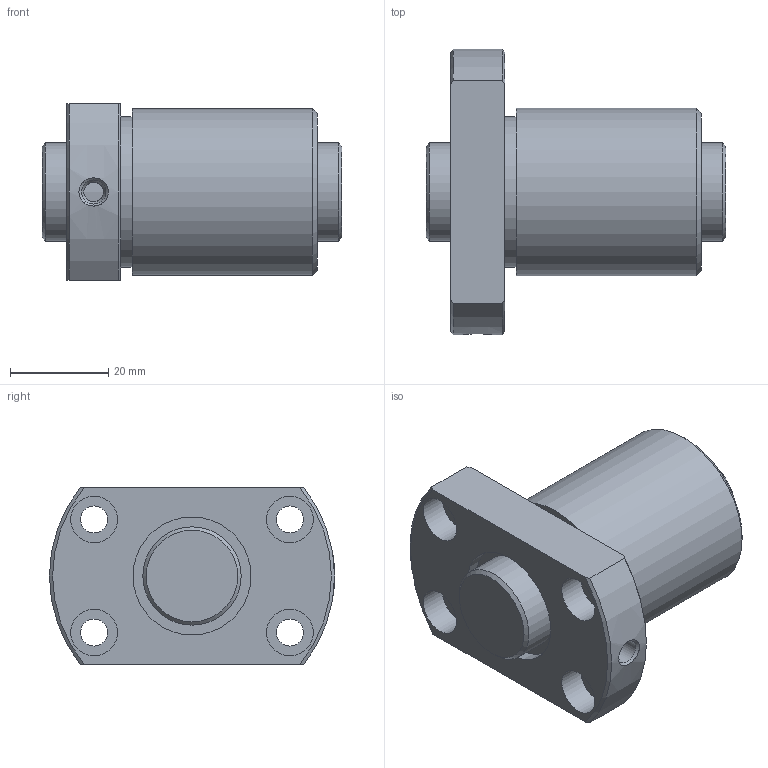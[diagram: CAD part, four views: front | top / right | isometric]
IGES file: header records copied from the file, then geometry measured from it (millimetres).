
Start section: Data from Parasolid IGES Translator 26.0.171, Copyright(c) 2006 Siemens PLM Software. All Rights Reserved.
Global section: file name: DK2005-4RRG1+61LC0_000.igs; native system: By Siemens PLM Incorporated; preprocessor: XPlus GENERIC/IGES 26.0.171; author: Noname; organization: Noname; date: 20250113.090844; units: millimetre
Bounding box: 61 x 58 x 36 mm (x, y, z)
Surface area: 18340.2 mm2 (no closed solid volume)
Topology: 0 solids, 0 shells, 41 faces, 166 edges, 133 vertices
Faces by surface type: revolution 27, extrusion 14
